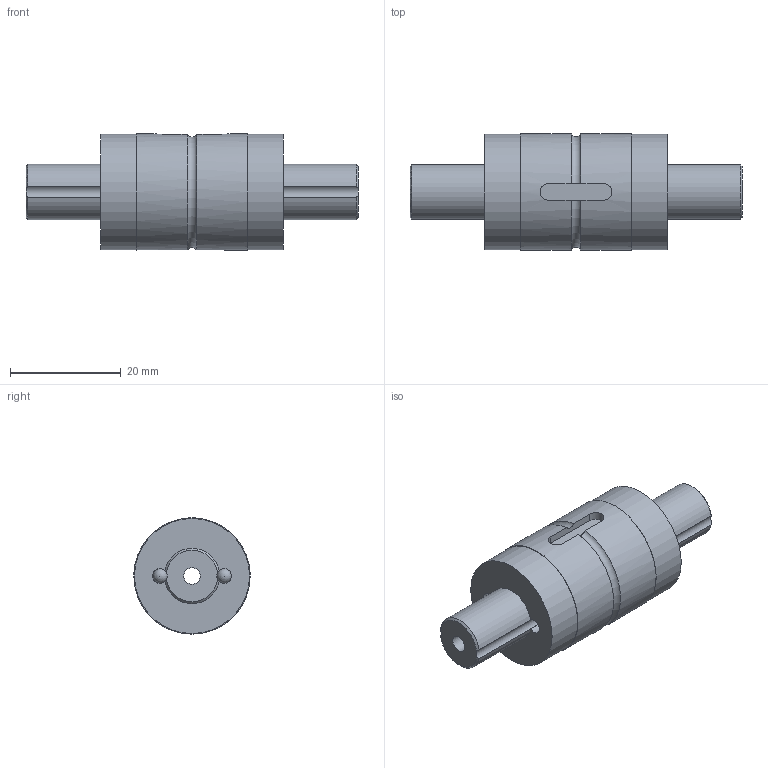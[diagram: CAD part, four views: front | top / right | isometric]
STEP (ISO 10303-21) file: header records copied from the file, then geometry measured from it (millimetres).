
FILE_DESCRIPTION(/* description */ ('Unknown'),/* implementation_level */ '2;1');
FILE_NAME(/* name */ 'TLT010-D1-L60',/* time_stamp */ '2024-12-23T10:11:21+08:00',/* author */ ('Unknown'),/* organization */ ('Unknown'),/* preprocessor_version */ 'ST-DEVELOPER v18.102',/* originating_system */ 'Solid Edge',/* authorisation */ 'Unknown');
FILE_SCHEMA (('AUTOMOTIVE_DESIGN {1 0 10303 214 3 1 1}'));
Length unit declared in the file: millimetre
Products named in the file (3): TLT010-D1-L60; TLT010-D1-xxxx; TLT010
Assembly tree (2 placements, depth 2):
  TLT010-D1-L60
    TLT010-D1-xxxx
    TLT010
Bounding box: 60 x 21 x 21 mm (x, y, z)
Volume: 12628 mm3; surface area: 6900.4 mm2
Topology: 2 solids, 2 shells, 40 faces, 159 edges, 105 vertices
Faces by surface type: cylinder 16, sphere 10, plane 9, cone 4, torus 1
Full cylindrical faces by diameter (mm): 1.5 x1, 3 x1, 20.8 x2, 21 x2
Entity records: 1979 total; most frequent: CARTESIAN_POINT 717, ORIENTED_EDGE 264, DIRECTION 204, EDGE_CURVE 132, VERTEX_POINT 94, AXIS2_PLACEMENT_3D 83, EDGE_LOOP 80, FACE_BOUND 80
